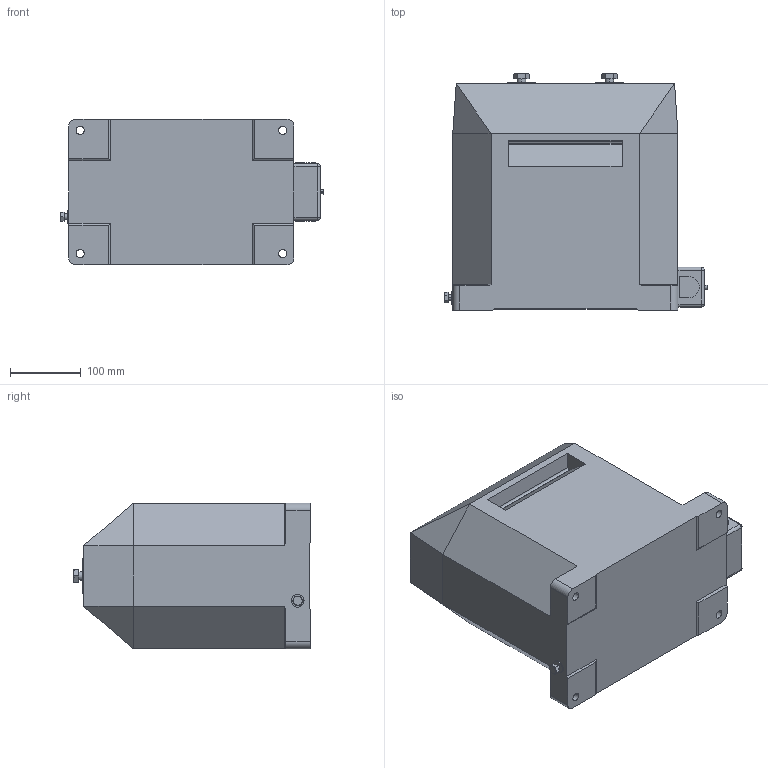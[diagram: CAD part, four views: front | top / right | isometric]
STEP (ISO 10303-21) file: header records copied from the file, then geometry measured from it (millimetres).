
FILE_DESCRIPTION (( 'STEP AP214' ), '1' );
FILE_NAME ('24305-021_AM-40a_5-600A.STEP', '2025-10-03T13:56:40', ( '' ), ( '' ), 'SwSTEP 2.0', 'SolidWorks 2020', '' );
FILE_SCHEMA (( 'AUTOMOTIVE_DESIGN' ));
Length unit declared in the file: millimetre
Products named in the file (1): 24305-021_AM-40a_5-600A
Bounding box: 372 x 334.5 x 206 mm (x, y, z)
Volume: 17796794.4 mm3; surface area: 451380.4 mm2
Topology: 1 solids, 1 shells, 268 faces, 703 edges, 442 vertices
Faces by surface type: plane 146, cylinder 96, cone 10, sphere 8, torus 4, bspline 4
Entity records: 9693 total; most frequent: CARTESIAN_POINT 2062, ORIENTED_EDGE 1390, DIRECTION 1349, EDGE_CURVE 695, AXIS2_PLACEMENT_3D 450, VECTOR 449, LINE 449, VERTEX_POINT 442
